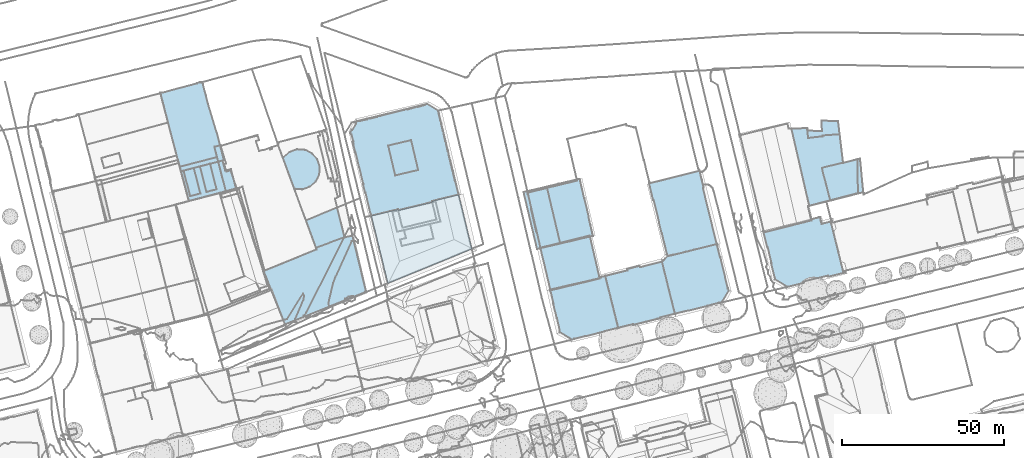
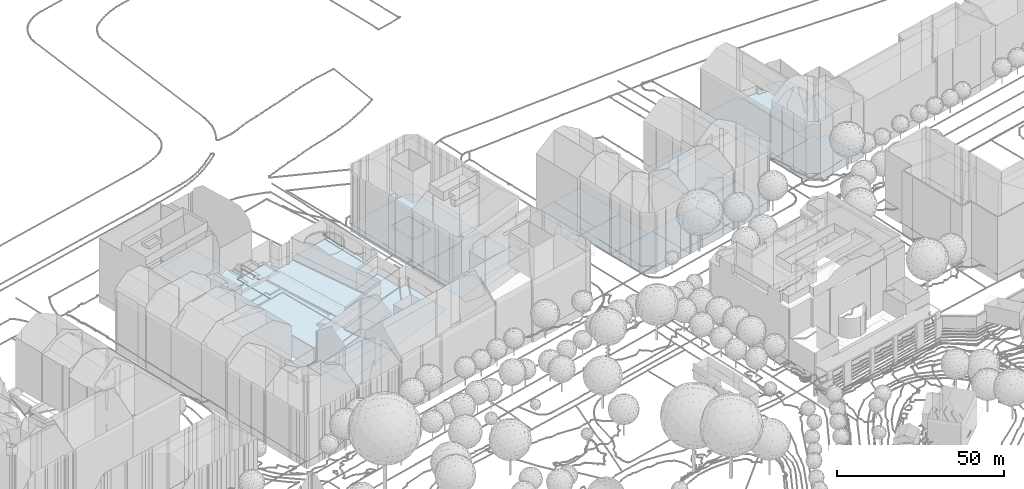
# Not in any storey, part 20 of 477: 14 footings.
"""IFC4 building model written with IfcOpenShell, lengths in metres."""

from ifc_helpers import new_model, si_unit, frame, origin_with_axes, place, context, subcontext, project, spatial, polygons, element, save


model = new_model("IFC4")

# Units and contexts
model_context = context("Model", 3, precision=1e-05, world=origin_with_axes())
body_context = subcontext(model_context, "Body", "Model", "MODEL_VIEW")
ifc_project = project(units=[si_unit("AREAUNIT", "SQUARE_METRE"), si_unit("LENGTHUNIT", "METRE")], contexts=[model_context])

# Sites, building
site_1_placement = place(None, origin_with_axes())
site_1 = spatial("IfcSite", under=ifc_project, at=site_1_placement, Name="Topoexport Site")
site_2_placement = place(site_1_placement, origin_with_axes())
site_2 = spatial("IfcSite", under=site_1, at=site_2_placement, Name="TPX_BUILDINGS")
building_1_placement = place(site_2_placement, frame((230.2577320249, 452.7801160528, 539.0125), z_axis=(0.0, 0.0, 1.0), x_axis=(1.0, 0.0, 0.0)))
building_1 = spatial("IfcBuilding", under=site_2, at=building_1_placement, Name="Building 197", CompositionType="ELEMENT")

# Footing
footing_1_placement = place(None, frame((230.2577320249, 452.7801160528, 539.0125), z_axis=(0.0, 0.0, 1.0), x_axis=(1.0, 0.0, 0.0)))
element("IfcFooting", 1, at=footing_1_placement, inside=building_1, Name="Floor 0", context=body_context, shape_type="Tessellation", body=[
    polygons([(33.3600000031, -19.259800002, 0.0), (27.5240000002, -20.6680000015, 0.0), (32.3320000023, -15.0274000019, 0.0), (31.0420000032, -9.7158000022, 0.0), (30.7380000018, -8.884800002, 0.0), (30.8360000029, -8.8672000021, 0.0), (30.2910000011, -6.6231000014, 0.0), (29.9910000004, -5.7754000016, 0.0), (30.0790000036, -5.7529000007, 0.0), (29.2390000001, -2.7109999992, 0.0), (29.3340000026, -2.688500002, 0.0), (29.5420000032, -3.5439999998, 0.0), (31.5860000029, -11.9561000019, 0.0), (31.7940000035, -12.8145000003, 0.0), (31.4900000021, -11.9824000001, 0.0), (32.2300000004, -15.0487999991, 0.0), (31.6970000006, -12.8408000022, 0.0), (25.1650000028, -21.2373000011, 0.0), (20.9200000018, -11.6895000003, 0.0), (30.200000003, -6.6464999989, 0.0), (30.9450000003, -9.751000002, 0.0), (18.75, -2.4805000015, 0.0), (29.4420000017, -3.5713, 0.0), (28.7950000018, -0.4677999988, 0.0), (28.4730000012, 0.4550999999, 0.0), (28.5660000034, 0.4765000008, 0.0), (28.7090000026, -0.4902000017, 0.0), (27.9520000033, 2.5918000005, 0.0), (28.0450000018, 2.6191000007, 0.0), (27.756000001, 3.4463, 0.0), (27.2200000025, 5.6796999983, 0.0), (27.074000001, 6.6162, 0.0), (27.2960000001, 5.6992000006, 0.0), (22.893000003, 8.3104999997, 0.0), (27.8370000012, 3.4765000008, 0.0), (23.6950000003, 8.6816000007, 0.0), (20.6920000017, 7.7694999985, 0.0), (17.5990000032, 7.0155999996, 0.0), (19.8400000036, 7.5683000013, 0.0), (20.6500000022, 7.9316000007, 0.0), (22.8540000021, 8.4745999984, 0.0), (19.8040000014, 7.7225999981, 0.0), (16.5780000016, 6.927699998, 0.0), (17.5710000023, 7.1728000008, 0.0), (25.2350000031, -21.5371000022, 0.0), (14.745000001, -24.0771999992, 0.0), (14.6650000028, -23.7774000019, 0.0), (12.2280000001, -24.3720999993, 0.0), (13.8490000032, -13.3555000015, 0.0), (6.3790000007, -25.7998000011, 0.0), (5.5080000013, -22.1737999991, 0.0), (4.6690000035, -18.6816999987, 0.0), (16.5880000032, 6.8554999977, 0.0), (11.6790000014, -4.1464999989, 0.0), (1.6220000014, -6.2890999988, 0.0), (0.9550000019, -2.9834000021, 0.0), (4.0050000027, -16.0331999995, 0.0), (5.1450000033, 3.932599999, 0.0), (4.563000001, -18.7061000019, 0.0), (3.9150000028, -16.066399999, 0.0), (0.8920000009, -3.7793000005, 0.0), (0.932, -3.7626999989, 0.0), (0.7440000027, -3.0401000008, 0.0), (1.5210000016, -6.313500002, 0.0), (8.2260000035, 4.682599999, 0.0), (9.126000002, 5.0029000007, 0.0), (5.9920000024, 4.1405999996, 0.0), (8.1790000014, 4.865199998, 0.0), (5.943, 4.3242000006, 0.0), (9.1020000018, 5.0918000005, 0.0), (5.0940000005, 4.1191000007, 0.0), (0.5960000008, 0.5975999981, 0.0), (0.0, 0.0, 0.0), (0.4340000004, 0.7080000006, 0.0), (1.7870000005, 2.5702999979, 0.0), (0.3900000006, -0.7080000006, 0.0), (0.193, -0.759800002, 0.0), (2.8790000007, 3.3896000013, 0.0), (2.0240000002, 3.378899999, 0.0), (2.8370000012, 3.5751999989, 0.0), (1.6120000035, 2.682599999, 0.0), (13.8490000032, -13.3555000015, 0.497), (18.75, -2.4805000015, 0.497), (20.9200000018, -11.6895000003, 0.497), (11.6790000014, -4.1464999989, 0.497)], [[[1, 2, 3]], [[4, 5, 6]], [[7, 8, 9]], [[10, 11, 12]], [[13, 14, 15]], [[16, 2, 17]], [[15, 14, 17]], [[18, 19, 2]], [[17, 19, 15]], [[3, 2, 16]], [[19, 17, 2]], [[20, 8, 7]], [[20, 19, 8]], [[21, 19, 5]], [[4, 21, 5]], [[22, 10, 23]], [[19, 20, 5]], [[15, 19, 21]], [[23, 10, 12]], [[8, 22, 23]], [[24, 25, 26]], [[24, 27, 25]], [[22, 28, 25]], [[29, 28, 30]], [[31, 32, 33]], [[31, 30, 34]], [[29, 30, 35]], [[32, 31, 36]], [[34, 30, 37]], [[22, 38, 39]], [[36, 31, 34]], [[22, 25, 27]], [[22, 39, 37]], [[22, 30, 28]], [[27, 10, 22]], [[37, 39, 40]], [[41, 36, 34]], [[39, 42, 40]], [[43, 44, 38]], [[30, 22, 37]], [[45, 46, 18]], [[18, 46, 47]], [[47, 48, 49]], [[48, 50, 51]], [[48, 51, 52]], [[19, 18, 47]], [[38, 22, 53]], [[22, 54, 53]], [[55, 56, 54]], [[19, 47, 49]], [[57, 49, 52]], [[57, 54, 49]], [[52, 49, 48]], [[54, 56, 58]], [[59, 60, 52]], [[52, 60, 57]], [[61, 62, 55]], [[63, 56, 62]], [[54, 57, 55]], [[55, 64, 61]], [[56, 55, 62]], [[54, 65, 66]], [[58, 67, 54]], [[65, 54, 67]], [[65, 68, 66]], [[53, 54, 66]], [[67, 58, 69]], [[38, 53, 43]], [[66, 68, 70]], [[71, 69, 58]], [[72, 73, 74]], [[75, 56, 72]], [[72, 76, 73]], [[76, 77, 73]], [[78, 79, 80]], [[78, 75, 79]], [[75, 81, 79]], [[75, 78, 56]], [[58, 56, 78]], [[72, 56, 76]], [[8, 19, 22]], [[82, 83, 84]], [[83, 82, 85]]]),
])

# Building
building_2_placement = place(site_2_placement, frame((236.6347320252, 426.9871160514, 538.7695), z_axis=(0.0, 0.0, 1.0), x_axis=(1.0, 0.0, 0.0)))
building_2 = spatial("IfcBuilding", under=site_2, at=building_2_placement, Name="Building 198", CompositionType="ELEMENT")

# Footing
footing_2_placement = place(None, frame((236.6347320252, 426.9871160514, 538.7695), z_axis=(0.0, 0.0, 1.0), x_axis=(1.0, 0.0, 0.0)))
element("IfcFooting", 2, at=footing_2_placement, inside=building_2, Name="Floor 0", context=body_context, shape_type="Tessellation", body=[
    polygons([(2.4130000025, -9.6649999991, 0.0), (22.5100000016, 5.4530999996, 0.0), (26.9830000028, 6.5331999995, 0.0), (18.8580000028, 4.2558999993, 0.0), (2.7730000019, -11.1132999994, 0.0), (31.0420000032, -10.177699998, 0.0), (18.7880000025, 4.5557000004, 0.0), (8.3680000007, 1.7158000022, 0.0), (1.1799999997, -4.5888999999, 0.0), (5.0970000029, 1.2393000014, 0.0), (8.2880000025, 2.0155999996, 0.0), (1.1440000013, -4.5946999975, 0.0), (0.1210000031, -0.2899999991, 0.0), (0.0, 0.0, 0.0), (0.0730000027, -0.3017999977, 0.0), (8.6070000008, -19.3710999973, 0.0), (4.256000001, -17.2236000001, 0.0), (3.8969999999, -15.7313999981, 0.0), (4.2070000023, -17.2196999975, 0.0), (3.8450000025, -15.7606999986, 0.0), (2.7330000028, -11.1210999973, 0.0), (2.376000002, -9.6816000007, 0.0), (5.1359999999, -20.7929999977, 0.0)], [[[1, 2, 3]], [[1, 4, 2]], [[5, 3, 6]], [[7, 2, 4]], [[8, 4, 9]], [[8, 10, 11]], [[8, 12, 10]], [[13, 10, 12]], [[14, 13, 15]], [[14, 10, 13]], [[8, 9, 12]], [[6, 16, 17]], [[18, 19, 20]], [[19, 18, 17]], [[18, 6, 17]], [[6, 18, 5]], [[1, 9, 4]], [[21, 1, 5]], [[1, 21, 22]], [[3, 5, 1]], [[23, 17, 16]]]),
])

# Building
building_3_placement = place(site_2_placement, frame((283.6617320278, 434.311316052, 538.7775), z_axis=(0.0, 0.0, 1.0), x_axis=(1.0, 0.0, 0.0)))
building_3 = spatial("IfcBuilding", under=site_2, at=building_3_placement, Name="Building 200", CompositionType="ELEMENT")

# Footings
footing_3_placement = place(None, frame((283.6617320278, 434.311316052, 538.7775), z_axis=(0.0, 0.0, 1.0), x_axis=(1.0, 0.0, 0.0)))
element("IfcFooting", 3, at=footing_3_placement, inside=building_3, Name="Floor 0", context=body_context, shape_type="Tessellation", body=[
    polygons([(11.3189999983, -15.8486000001, 26.1405), (11.318, -15.8495999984, 26.1405), (5.1349999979, -16.8486000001, 21.9429), (0.0, 0.0, 0.0), (7.1600000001, 1.6689999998, 0.0), (4.1699999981, -17.5546999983, 0.0), (11.318, -15.8495999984, 0.0), (11.3189999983, -15.8486000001, 0.0), (11.3239999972, -15.8759000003, 0.0)], [[[1, 2, 3]], [[4, 5, 6]], [[5, 7, 6]], [[7, 8, 9]], [[9, 6, 7]]]),
])
footing_4_placement = place(None, frame((283.6617320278, 434.311316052, 538.7775), z_axis=(0.0, 0.0, 1.0), x_axis=(1.0, 0.0, 0.0)))
element("IfcFooting", 4, at=footing_4_placement, inside=building_3, Name="Floor 1", context=body_context, shape_type="Tessellation", body=[
    polygons([(21.1380000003, -13.5848999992, 0.0), (20.9780000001, -11.8506000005, 0.0), (21.3729999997, -13.5253999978, 0.0), (14.7309999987, -15.0731999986, 0.0), (20.4230000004, -9.5, 0.0), (20.481999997, -13.75, 0.0), (19.9839999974, -7.6396000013, 0.0), (20.068, -7.615199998, 0.0), (18.6429999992, -1.8359000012, 0.0), (18.7249999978, -1.8104999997, 0.0), (18.0579999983, 0.7032000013, 0.0), (10.8019999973, 2.5371000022, 0.0), (17.4519999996, 3.3311000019, 0.0), (16.4169999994, 3.8662, 0.0), (9.9450000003, 2.3330000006, 0.0), (14.1519999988, -15.2157999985, 0.0), (11.3209999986, -15.8486000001, 0.0), (11.3239999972, -15.8759000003, 0.0), (11.318, -15.8495999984, 0.0), (7.1600000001, 1.6689999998, 0.0), (17.2839999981, 4.0625, 0.0), (14.2960000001, -15.1748000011, 0.0)], [[[1, 2, 3]], [[2, 4, 5]], [[2, 1, 6]], [[5, 4, 7]], [[8, 9, 10]], [[8, 7, 9]], [[11, 9, 12]], [[13, 11, 14]], [[7, 15, 9]], [[2, 6, 4]], [[16, 15, 7]], [[16, 17, 15]], [[17, 16, 18]], [[17, 19, 20]], [[14, 21, 13]], [[22, 7, 4]], [[12, 14, 11]], [[16, 7, 22]], [[12, 9, 15]], [[20, 15, 17]]]),
])

# Building
building_4_placement = place(site_2_placement, frame((308.8567320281, 408.4549160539, 538.5095), z_axis=(0.0, 0.0, 1.0), x_axis=(1.0, 0.0, 0.0)))
building_4 = spatial("IfcBuilding", under=site_2, at=building_4_placement, Name="Building 201", CompositionType="ELEMENT")

# Footing
footing_5_placement = place(None, frame((308.8567320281, 408.4549160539, 538.5095), z_axis=(0.0, 0.0, 1.0), x_axis=(1.0, 0.0, 0.0)))
element("IfcFooting", 5, at=footing_5_placement, inside=building_4, Name="Floor 0", context=body_context, shape_type="Tessellation", body=[
    polygons([(10.5529999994, 3.0643999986, 0.0), (10.6609999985, 2.6659999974, 0.0), (7.6030000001, 2.3261999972, 0.0), (6.7300000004, 2.047799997, 0.0), (6.7170000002, 2.1034999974, 0.0), (19.6349999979, -4.3057000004, -0.0001), (18.9299999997, -1.4707000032, -0.0001), (13.9759999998, 3.5067999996, 0.0), (6.8149999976, 1.7011999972, 0.0), (12.5759999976, -14.1123000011, -0.0001), (17.4709999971, 4.3944999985, 0.0), (4.0219999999, 1.0028999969, 0.0), (1.0329999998, -4.1513999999, 0.0), (1.2280000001, 0.3055999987, 0.0), (1.5929999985, -6.4024000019, 0.0), (1.8229999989, -7.3281000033, 0.0), (2.3619999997, -9.4942000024, -0.0001), (0.0, 0.0, 0.0), (19.8399999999, -5.130900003, -0.0001), (21.1730000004, -10.4922000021, -0.0001), (19.1270000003, -12.2373000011, -0.0001), (20.5169999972, -7.8545000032, -0.0001), (21.0849999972, -11.746100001, -0.0001), (21.481999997, -11.7373000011, -0.0001), (16.9329999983, -12.7871000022, -0.0001), (16.992999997, -13.0195000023, -0.0001), (16.1469999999, -13.2285000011, -0.0001), (21.118999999, -11.8350000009, -0.0001), (6.0240000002, -15.4932000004, -0.0001), (3.7289999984, -14.9922000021, -0.0001), (8.5139999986, -14.8770000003, -0.0001), (4.3420000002, -15.9101999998, -0.0001), (4.0009999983, -16.0850000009, -0.0001), (8.9059999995, -15.0215000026, -0.0001), (8.568, -15.1055000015, -0.0001), (4.3649999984, -15.996100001, -0.0001)], [[[1, 2, 3]], [[4, 5, 3]], [[6, 2, 7]], [[2, 8, 7]], [[9, 2, 10]], [[2, 9, 3]], [[8, 11, 7]], [[10, 2, 6]], [[4, 3, 9]], [[12, 13, 14]], [[15, 12, 9]], [[16, 15, 9]], [[16, 10, 17]], [[18, 14, 13]], [[13, 12, 15]], [[16, 9, 10]], [[19, 10, 6]], [[20, 21, 22]], [[21, 20, 23]], [[24, 23, 20]], [[21, 25, 22]], [[26, 27, 25]], [[19, 25, 27]], [[23, 24, 28]], [[10, 19, 27]], [[29, 30, 31]], [[29, 32, 30]], [[32, 33, 30]], [[17, 31, 30]], [[31, 34, 35]], [[33, 32, 36]], [[31, 10, 34]], [[31, 17, 10]], [[25, 19, 22]]]),
])

# Building
building_5_placement = place(site_2_placement, frame((291.8077320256, 404.2273160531, 538.5095), z_axis=(0.0, 0.0, 1.0), x_axis=(1.0, 0.0, 0.0)))
building_5 = spatial("IfcBuilding", under=site_2, at=building_5_placement, Name="Building 202", CompositionType="ELEMENT")

# Footing
footing_6_placement = place(None, frame((291.8077320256, 404.2273160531, 538.5095), z_axis=(0.0, 0.0, 1.0), x_axis=(1.0, 0.0, 0.0)))
element("IfcFooting", 6, at=footing_6_placement, inside=building_5, Name="Floor 0", context=body_context, shape_type="Tessellation", body=[
    polygons([(0.2239999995, -0.6279000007, 0.0), (0.0650000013, -0.2802000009, 0.0), (0.0, 0.0, 0.0), (2.2900000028, 0.5234999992, 0.0), (0.1520000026, -0.6493999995, 0.0), (1.0940000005, -4.2490000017, 0.0), (2.0749999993, -8.807599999, 0.0), (7.3910000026, -15.1757000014, -0.0002), (6.0460000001, 1.3828999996, 0.0), (6.0510000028, 1.3838, 0.0), (11.0260000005, -14.2635999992, 0.0), (6.2580000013, 1.4307000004, 0.0), (1.001000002, -4.2822000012, 0.0), (2.1570000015, -8.7890000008, 0.0), (3.0030000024, -12.8662, 0.0), (2.9180000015, -12.4959999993, 0.0), (3.0, -12.4677000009, 0.0), (3.0760000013, -13.1894000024, 0.0), (4.7100000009, -14.1922999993, -0.0002), (6.7239999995, -15.4277000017, -0.0002), (7.4020000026, -15.2635999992, -0.0002), (6.2960000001, 1.4395000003, 0.0), (15.3280000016, 3.5078999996, 0.0), (11.0580000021, -14.3377999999, -0.0002), (9.0769999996, 2.0762000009, 0.0), (9.063000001, 2.0722999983, 0.0), (15.813000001, 3.7529999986, 0.0), (15.3000000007, 3.6279999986, 0.0), (8.7360000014, 1.9980999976, 0.0), (17.0490000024, 4.2276000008, 0.0), (15.7900000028, 3.9122000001, 0.0), (18.6420000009, -2.1748000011, 0.0), (18.0820000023, 0.0762000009, 0.0), (18.8720000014, -3.1005000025, 0.0), (17.0069999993, -12.7675000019, -0.0001), (19.4959999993, -5.6084000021, -0.0001), (20.6480000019, -11.8671000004, -0.0001), (17.0270000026, -12.8465999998, -0.0001), (20.7900000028, -10.8104999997, -0.0001), (21.0500000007, -11.8574000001, -0.0001), (20.6860000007, -11.946200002, -0.0001)], [[[1, 2, 3]], [[3, 4, 1]], [[1, 5, 2]], [[6, 4, 7]], [[8, 4, 9]], [[10, 11, 9]], [[9, 11, 8]], [[11, 10, 12]], [[6, 1, 4]], [[6, 7, 13]], [[4, 14, 7]], [[15, 16, 17]], [[18, 15, 17]], [[19, 17, 14]], [[14, 8, 19]], [[8, 20, 19]], [[19, 18, 17]], [[8, 21, 20]], [[8, 14, 4]], [[12, 22, 11]], [[23, 24, 25]], [[25, 24, 26]], [[27, 23, 28]], [[29, 26, 24]], [[30, 27, 31]], [[32, 23, 33]], [[27, 30, 33]], [[23, 27, 33]], [[32, 34, 23]], [[35, 36, 37]], [[38, 24, 35]], [[23, 35, 24]], [[11, 29, 24]], [[39, 37, 36]], [[40, 41, 37]], [[39, 40, 37]], [[35, 34, 36]], [[35, 23, 34]], [[11, 22, 29]]]),
])

# Building
building_6_placement = place(site_2_placement, frame((322.3647320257, 436.9627160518, 538.8935), z_axis=(0.0, 0.0, 1.0), x_axis=(1.0, 0.0, 0.0)))
building_6 = spatial("IfcBuilding", under=site_2, at=building_6_placement, Name="Building 203", CompositionType="ELEMENT")

# Footing
footing_7_placement = place(None, frame((322.3647320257, 436.9627160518, 538.8935), z_axis=(0.0, 0.0, 1.0), x_axis=(1.0, 0.0, 0.0)))
element("IfcFooting", 7, at=footing_7_placement, inside=building_6, Name="Floor 0", context=body_context, shape_type="Tessellation", body=[
    polygons([(16.2490000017, 1.0243999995, -0.0001), (9.0160000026, 2.2666000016, -0.0001), (15.5370000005, 3.9061999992, -0.0001), (1.432, -5.177699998, -0.0001), (6.2010000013, 1.558600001, -0.0001), (16.6009999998, -1.4043000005, -0.0001), (20.7660000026, -18.3398000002, -0.0001), (16.8340000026, -1.3456999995, -0.0001), (1.2719999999, -5.2040999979, -0.0001), (0.0, 0.0, 0.0), (3.0940000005, -11.9248000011, -0.0001), (14.6490000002, -20.2509999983, -0.0001), (20.9400000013, -18.6942999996, -0.0001), (11.8310000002, -20.9481999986, -0.0001), (20.8540000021, -18.3202999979, -0.0001), (3.0170000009, -11.9463, -0.0001), (3.887000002, -15.4481999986, -0.0001), (3.9580000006, -15.436499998, -0.0001), (5.693, -22.4668000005, -0.0001)], [[[1, 2, 3]], [[4, 5, 2]], [[1, 6, 2]], [[2, 6, 7]], [[6, 1, 8]], [[2, 7, 4]], [[9, 10, 5]], [[5, 4, 9]], [[4, 7, 11]], [[12, 11, 7]], [[12, 7, 13]], [[12, 14, 11]], [[15, 13, 7]], [[16, 11, 14]], [[17, 16, 18]], [[14, 18, 16]], [[19, 18, 14]]]),
])

# Building
building_7_placement = place(site_2_placement, frame((288.8057320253, 417.0477160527, 538.6815), z_axis=(0.0, 0.0, 1.0), x_axis=(1.0, 0.0, 0.0)))
building_7 = spatial("IfcBuilding", under=site_2, at=building_7_placement, Name="Building 204", CompositionType="ELEMENT")

# Footing
footing_8_placement = place(None, frame((288.8057320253, 417.0477160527, 538.6815), z_axis=(0.0, 0.0, 1.0), x_axis=(1.0, 0.0, 0.0)))
element("IfcFooting", 8, at=footing_8_placement, inside=building_7, Name="Floor 0", context=body_context, shape_type="Tessellation", body=[
    polygons([(18.2660000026, -9.0390999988, -0.0001), (9.1500000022, 2.0956999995, 0.0), (15.3370000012, 3.5135999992, 0.0), (6.3619999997, 1.4580000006, 0.0), (3.0670000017, -12.6807000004, 0.0), (9.3030000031, -11.379900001, 0.0), (0.0, 0.0, 0.0), (0.1449999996, -0.2714999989, 0.0), (0.075000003, -0.2862000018, 0.0), (18.7920000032, -8.9072999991, -0.0001), (18.8150000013, -9.067400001, -0.0001), (18.3020000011, -9.192400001, -0.0001), (12.0899999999, -10.7422000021, -0.0001), (18.3300000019, -9.3125, -0.0001), (3.0020000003, -12.8233000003, 0.0), (2.9810000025, -12.7334000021, 0.0)], [[[1, 2, 3]], [[1, 4, 2]], [[5, 1, 6]], [[7, 8, 9]], [[7, 4, 8]], [[8, 4, 5]], [[1, 5, 4]], [[10, 11, 1]], [[12, 13, 1]], [[12, 1, 11]], [[12, 14, 13]], [[5, 15, 16]], [[15, 5, 6]], [[6, 1, 13]]]),
])

# Building
building_8_placement = place(site_2_placement, frame((326.3277320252, 412.8494160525, 538.5095), z_axis=(0.0, 0.0, 1.0), x_axis=(1.0, 0.0, 0.0)))
building_8 = spatial("IfcBuilding", under=site_2, at=building_8_placement, Name="Building 205", CompositionType="ELEMENT")

# Footing
footing_9_placement = place(None, frame((326.3277320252, 412.8494160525, 538.5095), z_axis=(0.0, 0.0, 1.0), x_axis=(1.0, 0.0, 0.0)))
element("IfcFooting", 9, at=footing_9_placement, inside=building_8, Name="Floor 0", context=body_context, shape_type="Tessellation", body=[
    polygons([(1.4590000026, -5.8652000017, -0.0001), (7.6760000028, 3.1171999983, 0.0), (2.1640000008, -8.7001999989, -0.0001), (2.3690000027, -9.5254000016, -0.0001), (7.9780000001, -15.0692999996, -0.0001), (3.0460000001, -12.2490000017, -0.0001), (14.0, -13.6640000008, -0.0001), (0.0, 0.0, 0.0), (0.5190000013, 0.4941999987, 0.0), (4.2250000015, 2.2637000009, 0.0), (7.4759999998, 3.0683999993, 0.0), (1.7300000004, 1.6464999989, 0.0), (13.9890000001, -13.5839999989, -0.0001), (4.3540000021, -15.9589999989, -0.0001), (4.012000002, -16.1328000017, -0.0001), (3.7020000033, -14.8867000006, -0.0001), (4.3770000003, -16.0507999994, -0.0001), (8.0090000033, -15.1504000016, -0.0001), (10.6460000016, 3.8526000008, -0.0001), (19.4560000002, -4.5868999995, -0.0001), (10.2670000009, 3.7578000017, -0.0001), (16.9869999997, 5.0166000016, -0.0001), (17.4060000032, 3.3427999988, -0.0001), (9.9140000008, 3.6708999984, 0.0), (16.9830000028, 5.4199000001, -0.0001), (17.8969999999, 1.3828000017, -0.0001), (17.0620000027, 5.0449000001, -0.0001), (17.9869999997, 1.3975000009, -0.0001), (19.3900000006, -4.6024999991, -0.0001), (20.2939999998, -8.2529000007, -0.0001), (18.6440000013, -12.0839999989, -0.0001), (17.6180000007, -12.6787, -0.0001), (18.3960000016, -12.496100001, -0.0001), (18.3360000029, -12.5956999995, -0.0001), (17.6500000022, -12.7685000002, -0.0001), (20.5530000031, -8.9160000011, -0.0001), (20.5439999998, -8.8817999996, -0.0001), (20.3780000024, -8.2148000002, -0.0001)], [[[1, 2, 3]], [[4, 5, 6]], [[7, 4, 3]], [[8, 9, 1]], [[1, 10, 11]], [[1, 12, 10]], [[2, 1, 11]], [[12, 1, 9]], [[3, 13, 7]], [[14, 15, 16]], [[14, 17, 15]], [[14, 16, 5]], [[16, 6, 5]], [[18, 5, 7]], [[5, 4, 7]], [[2, 13, 3]], [[19, 20, 21]], [[19, 22, 23]], [[21, 20, 24]], [[25, 22, 19]], [[26, 19, 23]], [[27, 22, 25]], [[28, 20, 26]], [[20, 19, 26]], [[29, 2, 20]], [[30, 31, 32]], [[32, 13, 29]], [[31, 33, 32]], [[34, 35, 32]], [[32, 33, 34]], [[36, 31, 37]], [[30, 38, 37]], [[31, 30, 37]], [[30, 32, 29]], [[29, 13, 2]], [[24, 20, 2]]]),
])

# Building
building_9_placement = place(site_2_placement, frame((350.3717320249, 451.8328160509, 539.2744), z_axis=(0.0, 0.0, 1.0), x_axis=(1.0, 0.0, 0.0)))
building_9 = spatial("IfcBuilding", under=site_2, at=building_9_placement, Name="Building 206", CompositionType="ELEMENT")

# Footing
footing_10_placement = place(None, frame((350.3717320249, 451.8328160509, 539.2744), z_axis=(0.0, 0.0, 1.0), x_axis=(1.0, 0.0, 0.0)))
element("IfcFooting", 10, at=footing_10_placement, inside=building_9, Name="Floor 0", context=body_context, shape_type="Tessellation", body=[
    polygons([(20.6960000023, 2.0938000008, 0.095), (20.8680000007, 1.375, 0.095), (15.875, 2.0205000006, 0.095), (21.3670000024, -21.7636999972, 0.095), (31.7920000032, -8.5419999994, 0.095), (20.8850000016, 2.0957000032, 0.095), (25.307, 1.2930000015, 0.095), (25.1130000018, 3.630900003, 0.095), (30.2460000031, 4.3076000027, 0.095), (30.7310000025, 0.2763999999, 0.095), (25.1490000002, 4.4883000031, 0.095), (36.3470000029, -17.8378999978, 0.0949), (36.2890000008, -7.4042999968, 0.095), (20.6870000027, 2.1709000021, 0.095), (0.1580000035, -0.3807999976, 0.0), (0.0950000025, -0.3954999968, 0.0), (0.0, 0.0, 0.0), (6.6030000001, 1.6152000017, 0.0), (7.3410000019, -29.5145999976, 0.0), (10.568, 2.5850000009, 0.0), (14.6540000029, 3.5850000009, 0.0), (15.0380000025, 2.0215000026, 0.0), (20.9350000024, -21.9130999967, 0.0), (21.376000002, -21.8007999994, 0.0), (15.875, 2.0215000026, 0.0), (13.5390000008, -28.4169999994, 0.0), (7.2940000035, -30.003899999, 0.0), (7.1830000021, -29.5585999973, 0.0), (22.0300000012, -26.2577999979, 0.0), (17.4960000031, -27.4111000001, 0.0), (36.2890000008, -7.4042999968, 0.201), (37.5200000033, -12.4520999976, 0.2009), (36.3470000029, -17.8378999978, 0.2009), (27.8670000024, -20.1611000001, 0.2009), (27.8430000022, -20.0673999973, 0.2009), (38.0050000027, -17.5975999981, 0.2009), (37.0890000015, -7.1639999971, 0.201), (37.0990000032, -7.994099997, 0.201), (37.0260000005, -7.2177999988, 0.201), (37.0260000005, -7.1796999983, 0.201)], [[[1, 2, 3]], [[4, 3, 2]], [[4, 2, 5]], [[6, 2, 1]], [[7, 8, 9]], [[9, 10, 7]], [[8, 11, 9]], [[5, 7, 10]], [[12, 5, 13]], [[4, 5, 12]], [[2, 7, 5]], [[14, 1, 3]], [[15, 16, 17]], [[17, 18, 15]], [[18, 19, 15]], [[19, 18, 20]], [[21, 22, 20]], [[23, 19, 22]], [[24, 23, 25]], [[23, 22, 25]], [[23, 26, 19]], [[19, 26, 27]], [[27, 28, 19]], [[23, 29, 30]], [[26, 23, 30]], [[20, 22, 19]], [[31, 32, 33]], [[33, 34, 35]], [[33, 36, 34]], [[37, 38, 39]], [[39, 40, 37]], [[31, 38, 32]], [[33, 32, 36]], [[31, 39, 38]]]),
])

# Building
building_10_placement = place(site_2_placement, frame((357.6657320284, 421.8289160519, 539.1994), z_axis=(0.0, 0.0, 1.0), x_axis=(1.0, 0.0, 0.0)))
building_10 = spatial("IfcBuilding", under=site_2, at=building_10_placement, Name="Building 208", CompositionType="ELEMENT")

# Footing
footing_11_placement = place(None, frame((357.6657320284, 421.8289160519, 539.1994), z_axis=(0.0, 0.0, 1.0), x_axis=(1.0, 0.0, 0.0)))
element("IfcFooting", 11, at=footing_11_placement, inside=building_10, Name="Floor 0", context=body_context, shape_type="Tessellation", body=[
    polygons([(24.5169999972, -11.9100999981, -0.0001), (19.9179999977, -13.6268999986, -0.0001), (24.3809999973, -11.365199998, -0.0001), (23.9299999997, -9.5625, -0.0001), (19.8239999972, -13.248999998, -0.0001), (23.0449999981, -6.0185000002, -0.0001), (24.6529999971, -12.4550999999, -0.0001), (12.3529999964, -15.1123000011, -0.0001), (22.9439999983, -5.6141999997, -0.0001), (22.1999999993, -2.6347999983, 0.0), (17.8849999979, 2.6768000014, 0.0), (21.4959999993, 0.183600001, 0.0), (10.4019999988, 2.6436000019, 0.0), (20.6909999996, 3.4024000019, 0.0), (20.9559999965, 2.3438000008, 0.0), (17.4009999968, 4.7617000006, 0.0), (17.5659999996, 4.1074000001, 0.0), (17.5269999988, 4.0967000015, 0.0), (14.7359999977, 3.746100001, 0.0), (17.7619999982, 3.1689999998, 0.0), (14.6539999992, 4.072300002, 0.0), (17.2089999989, 4.7138999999, 0.0), (7.8339999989, -16.6503999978, -0.0001), (2.3279999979, -9.4120999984, 0.0), (12.4469999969, -15.490199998, -0.0001), (5.3169999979, -15.5654000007, -0.0001), (7.1589999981, -16.7118999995, -0.0001), (3.4959999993, -14.1338, 0.0), (3.5829999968, -14.4844000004, 0.0), (7.2819999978, -16.7890999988, -0.0001), (2.4519999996, -9.3847999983, 0.0), (1.2679999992, -4.5654000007, 0.0), (3.6309999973, 0.9228999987, 0.0), (6.193, 1.5751999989, 0.0), (0.5279999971, -2.1182000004, 0.0), (6.7789999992, 1.7226999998, 0.0), (1.1439999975, -4.5868999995, 0.0), (0.0, 0.0, 0.0)], [[[1, 2, 3]], [[4, 3, 2]], [[4, 5, 6]], [[1, 7, 2]], [[5, 8, 6]], [[8, 9, 6]], [[8, 10, 9]], [[10, 11, 12]], [[11, 10, 13]], [[4, 2, 5]], [[11, 14, 15]], [[12, 11, 15]], [[16, 17, 18]], [[19, 18, 20]], [[20, 11, 19]], [[19, 21, 22]], [[22, 18, 19]], [[11, 13, 19]], [[22, 16, 18]], [[23, 24, 8]], [[25, 23, 8]], [[24, 23, 26]], [[23, 27, 26]], [[28, 24, 26]], [[26, 29, 28]], [[23, 30, 27]], [[8, 24, 31]], [[32, 33, 34]], [[32, 35, 33]], [[13, 32, 36]], [[36, 32, 34]], [[13, 31, 32]], [[35, 32, 37]], [[35, 38, 33]], [[8, 31, 13]], [[13, 10, 8]]]),
])

# Building
building_11_placement = place(site_2_placement, frame((171.6827320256, 464.931416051, 544.4901), z_axis=(0.0, 0.0, 1.0), x_axis=(1.0, 0.0, 0.0)))
building_11 = spatial("IfcBuilding", under=site_2, at=building_11_placement, Name="Building 223", CompositionType="ELEMENT")

# Footing
footing_12_placement = place(None, frame((171.6827320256, 464.931416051, 544.4901), z_axis=(0.0, 0.0, 1.0), x_axis=(1.0, 0.0, 0.0)))
element("IfcFooting", 12, at=footing_12_placement, inside=building_11, Name="Floor 0", context=body_context, shape_type="Tessellation", body=[
    polygons([(32.1319999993, -54.8358999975, -5.9496), (31.6400000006, -55.0361000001, -5.9496), (25.3049999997, -29.0145999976, -5.9495), (7.3910000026, -45.0252999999, -5.9495), (4.6040000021, -34.4872999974, -5.9495), (10.7540000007, -57.7459999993, -5.9495), (33.6090000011, -60.4188999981, -5.9496), (14.1190000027, -68.0711999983, -5.9496), (14.1380000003, -68.1405999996, -5.9496), (13.5439999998, -68.297799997, -5.9496), (33.4499999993, -59.8192999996, -5.9496), (38.4739999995, -71.5223999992, -5.9656), (37.4580000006, -71.9287, -5.9656), (36.3260000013, -66.1415999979, -5.9656), (16.3780000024, -73.9764999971, -5.9656), (36.2930000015, -66.0594999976, -5.9656), (33.8800000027, -60.9549999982, -5.9656), (34.2039999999, -60.8250999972, -5.9656), (33.6680000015, -60.3954999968, -5.9656), (14.1190000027, -68.0711999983, -5.9656), (14.7910000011, -68.3524999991, -5.9656), (16.4210000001, -74.1268999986, -5.9656), (17.9940000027, -79.7010999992, -5.9657), (14.2369999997, -68.4891999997, -5.9656), (16.6520000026, -16.6854999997, -5.2746), (17.4869999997, -12.6708000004, -5.2746), (18.4090000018, -16.2303999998, -5.2746), (11.3489999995, 2.8692000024, -5.2745), (14.0250000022, -0.9237999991, -5.2745), (14.0340000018, -0.9569999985, -5.2745), (14.6960000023, -3.5155999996, -5.2745), (12.9360000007, 3.2901000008, -5.2745), (13.0840000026, 2.7138999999, -5.2745), (12.6440000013, 3.2120000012, -5.2745), (13.1000000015, 2.6513999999, -5.2745), (12.2910000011, 3.1182000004, -5.2745), (12.2550000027, 3.2442000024, -5.2745), (3.1779999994, -12.2821999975, -5.2745), (0.4519999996, -0.0185000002, -5.2745), (5.0109999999, -19.2254999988, -5.2746), (17.4739999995, -19.8592999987, -5.2746), (5.9640000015, -22.8387999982, -5.2746), (1.1040000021, -4.2685000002, -5.2745), (0.1790000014, -0.6932999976, -5.2745), (0.0, 0.0001000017, -5.2745), (11.3139999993, 3.0020000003, -5.2745), (0.4180000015, 0.1114000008, -5.2745), (20.193, -30.3662, -5.4106), (8.75, -33.3915999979, -5.4106), (17.4739999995, -19.8592999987, -5.4106), (5.9640000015, -22.8387999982, -5.4105), (29.4389999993, -14.9199000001, -5.7695), (24.2190000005, -14.7264999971, -5.7695), (29.9849999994, -13.2342999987, -5.7695), (30.4539999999, -14.6063999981, -5.7695), (31.5030000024, -17.6629999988, -5.7695), (31.5340000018, -17.7567999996, -5.7695), (30.4830000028, -18.0086999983, -5.7695), (18.5610000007, -16.1912999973, -5.7695), (18.6300000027, -16.4188999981, -5.7695), (16.6520000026, -16.6854999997, -5.7695), (25.3049999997, -29.0145999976, -5.7695), (20.193, -30.3662, -5.7695), (48.182, -48.302699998, -5.7696), (36.3110000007, -16.1248999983, -5.7695), (34.4930000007, -17.2625999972, -5.7695), (34.3350000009, -16.8084999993, -5.7695), (37.0789999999, -18.2079999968, -5.7695), (33.8560000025, -17.4881999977, -5.7695), (32.1319999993, -54.8358999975, -5.7696), (33.6999999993, -17.0350999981, -5.7695)], [[[1, 2, 3]], [[2, 4, 3]], [[5, 3, 4]], [[4, 2, 6]], [[7, 6, 2]], [[8, 6, 7]], [[9, 10, 8]], [[6, 8, 10]], [[11, 7, 2]], [[12, 13, 14]], [[14, 15, 16]], [[16, 17, 18]], [[19, 17, 20]], [[16, 21, 17]], [[15, 14, 13]], [[16, 15, 21]], [[22, 13, 23]], [[22, 15, 13]], [[24, 20, 21]], [[20, 17, 21]], [[25, 26, 27]], [[28, 29, 30]], [[25, 31, 26]], [[28, 30, 31]], [[32, 33, 34]], [[33, 35, 34]], [[34, 35, 36]], [[36, 29, 28]], [[36, 28, 37]], [[35, 29, 36]], [[38, 39, 40]], [[25, 41, 42]], [[25, 42, 40]], [[38, 43, 39]], [[39, 43, 44]], [[25, 40, 39]], [[44, 45, 39]], [[39, 28, 31]], [[37, 28, 46]], [[45, 47, 39]], [[25, 39, 31]], [[48, 49, 50]], [[51, 50, 49]], [[52, 53, 54]], [[54, 55, 52]], [[56, 57, 58]], [[59, 60, 61]], [[60, 53, 62]], [[53, 52, 58]], [[60, 63, 61]], [[62, 53, 58]], [[64, 58, 57]], [[65, 66, 67]], [[66, 68, 69]], [[66, 65, 68]], [[68, 64, 69]], [[57, 69, 64]], [[60, 62, 63]], [[64, 62, 58]], [[70, 62, 64]], [[71, 69, 57]]]),
])

# Building
building_12_placement = place(site_2_placement, frame((207.923732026, 449.1404160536, 539.0145), z_axis=(0.0, 0.0, 1.0), x_axis=(1.0, 0.0, 0.0)))
building_12 = spatial("IfcBuilding", under=site_2, at=building_12_placement, Name="Building 224", CompositionType="ELEMENT")

# Footing
footing_13_placement = place(None, frame((207.923732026, 449.1404160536, 539.0145), z_axis=(0.0, 0.0, 1.0), x_axis=(1.0, 0.0, 0.0)))
element("IfcFooting", 13, at=footing_13_placement, inside=building_12, Name="Floor 0", context=body_context, shape_type="Tessellation", body=[
    polygons([(8.6290000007, -23.5361000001, 0.0), (17.5980000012, -16.9101000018, 0.0), (18.2659999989, -19.5996000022, 0.0), (0.8379999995, -2.4169999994, 0.0), (13.5520000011, 4.0108000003, 0.0), (18.4649999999, -16.4189000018, 0.0), (0.3940000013, 0.5888999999, 0.0), (0.1110000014, -0.3192999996, 0.0), (0.0700000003, -0.3340000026, 0.0), (0.0, 0.0, 0.0), (0.182, 0.0527999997, 0.0), (0.0219999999, 0.4921999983, 0.0), (18.137000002, -11.4658000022, 0.127), (19.1909999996, -16.0078000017, 0.127), (18.4649999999, -16.4189000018, 0.127), (18.0260000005, -10.9834000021, 0.127), (18.75, -11.6445000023, 0.127), (16.4690000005, -2.3525000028, 0.127), (18.4240000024, -10.3213, 0.127), (15.9460000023, -2.0516999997, 0.127), (13.5520000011, 4.0108000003, 0.127), (14.2890000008, 4.2021999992, 0.127), (14.3790000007, 3.861399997, 0.127), (15.2420000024, 0.8213, 0.127), (15.561999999, 1.3359999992, 0.127), (15.0500000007, 3.4638999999, 0.127)], [[[1, 2, 3]], [[1, 4, 2]], [[5, 6, 2]], [[2, 4, 5]], [[7, 5, 4]], [[8, 4, 9]], [[10, 11, 8]], [[12, 7, 11]], [[4, 11, 7]], [[4, 8, 11]], [[13, 14, 15]], [[15, 16, 13]], [[13, 17, 14]], [[18, 19, 20]], [[19, 16, 20]], [[15, 21, 16]], [[21, 22, 23]], [[23, 20, 21]], [[20, 23, 24]], [[25, 24, 26]], [[23, 26, 24]], [[20, 16, 21]]]),
])

# Building
building_13_placement = place(site_2_placement, frame((203.3227320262, 409.8953160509, 538.7355), z_axis=(0.0, 0.0, 1.0), x_axis=(1.0, 0.0, 0.0)))
building_13 = spatial("IfcBuilding", under=site_2, at=building_13_placement, Name="Building 225", CompositionType="ELEMENT")

# Footing
footing_14_placement = place(None, frame((203.3227320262, 409.8953160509, 538.7355), z_axis=(0.0, 0.0, 1.0), x_axis=(1.0, 0.0, 0.0)))
element("IfcFooting", 14, at=footing_14_placement, inside=building_13, Name="Floor 0", context=body_context, shape_type="Tessellation", body=[
    polygons([(13.2300000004, 15.7090000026, 0.293), (25.1330000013, 10.5117000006, 0.293), (16.3520000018, 7.2471000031, 0.293), (22.8669999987, 19.6455000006, 0.293), (1.8099999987, -4.7831999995, 0.0), (2.5639999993, -5.7889999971, 0.0), (2.0280000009, -5.3593999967, 0.0), (1.9690000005, -5.3827999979, 0.0), (16.5419999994, 6.7334000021, 0.0), (7.0309999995, -16.2909999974, 0.0), (6.8339999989, -16.4862999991, 0.0), (2.2400000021, -5.9188999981, 0.0), (7.0720000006, -16.3925999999, 0.0), (31.5199999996, -6.4589999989, 0.0), (0.0, 0.0, 0.0), (16.3520000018, 7.2471000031, 0.0), (25.1530000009, 10.4326000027, 0.0), (31.7300000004, -6.0682999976, 0.0), (25.1330000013, 10.5117000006, 0.0), (27.5769999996, 10.9795000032, 0.0), (31.6669999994, -6.3398000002, 0.0), (31.6009999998, -6.4081999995, 0.0), (31.7290000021, -6.1952999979, 0.0)], [[[1, 2, 3]], [[2, 1, 4]], [[5, 6, 7]], [[8, 5, 7]], [[5, 9, 6]], [[10, 11, 6]], [[12, 7, 6]], [[10, 13, 11]], [[14, 10, 6]], [[15, 9, 5]], [[16, 17, 9]], [[17, 18, 9]], [[17, 16, 19]], [[17, 20, 18]], [[14, 21, 22]], [[23, 21, 14]], [[14, 18, 23]], [[9, 18, 14]], [[14, 6, 9]]]),
])

save(model, "model.ifc")
